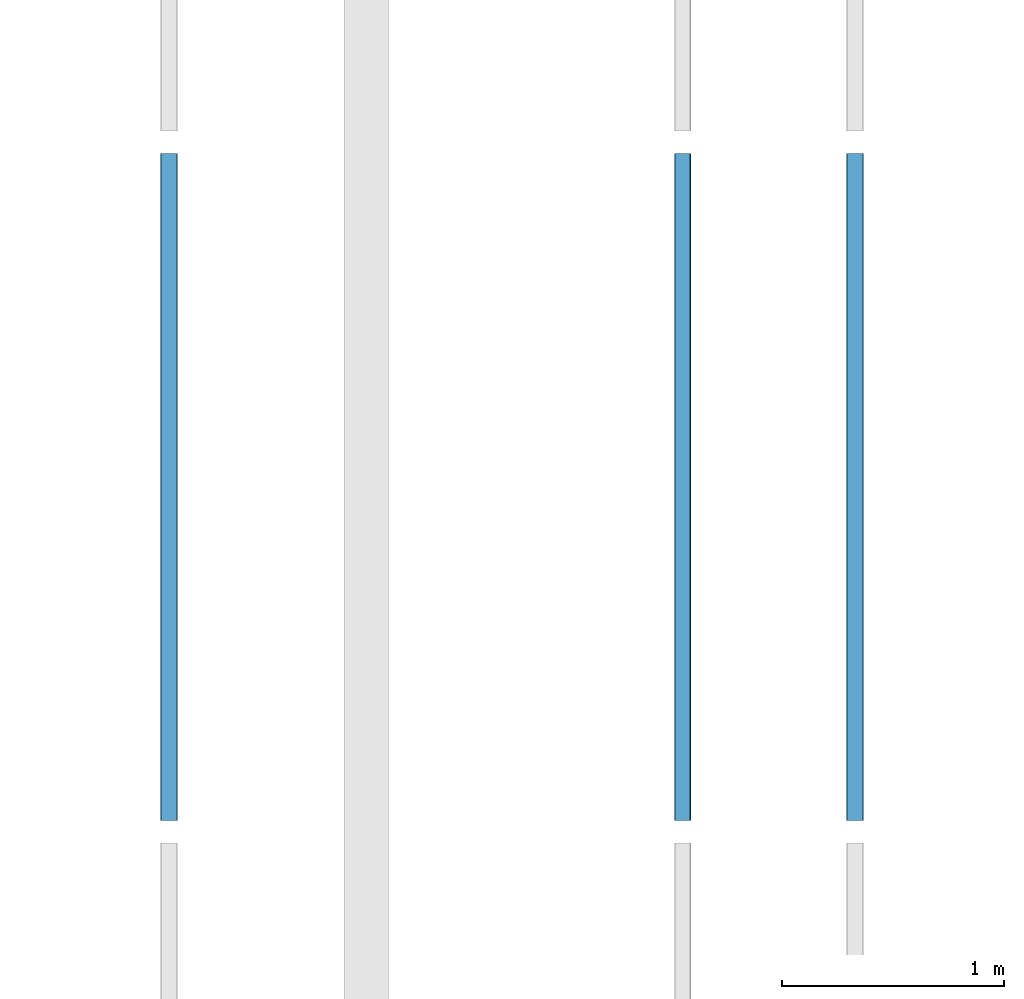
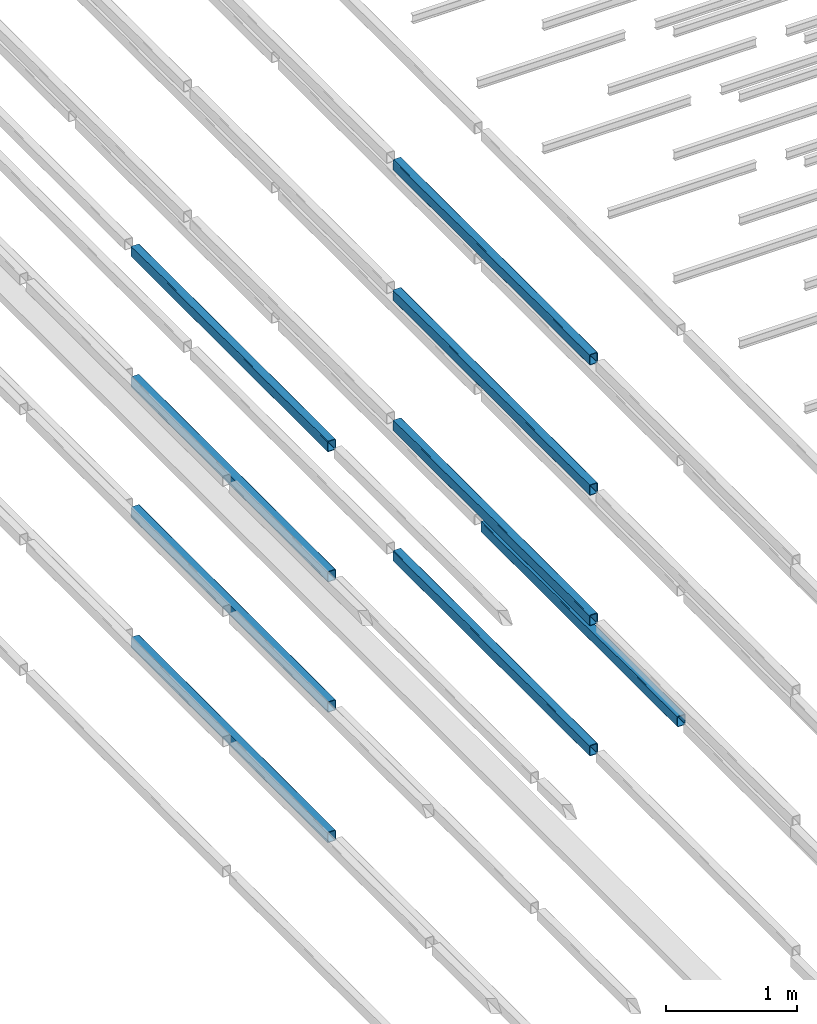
# One storey, part 75 of 290: 9 beams.
"""IFC2X3 building model written with IfcOpenShell, lengths in metres."""

import ifcopenshell
import ifcopenshell.guid

model = None  # the IFC model being written
_history = None  # IfcOwnerHistory: only IFC2X3 demands one
_inside = {}  # id of a spatial element -> (the spatial element, [elements in it])
_under = {}  # id of a project, library or spatial element -> (it, [spatial elements below it])
_declared = {}  # id of a project -> (the project, [libraries it declares])
_typed = {}  # id of a type object -> (the type object, [elements of that type])
_made_of = {}  # id of a material, layer set ... -> (it, [elements and type objects made of it])


def new_model(schema):
    """Start an empty IFC model of exactly this schema.

    Asked for "IFC4X3", IfcOpenShell would pick the latest addendum, in which some entities
    have other attributes; the version numbers below select the first issue.
    IFC2X3 requires an IfcOwnerHistory on every rooted entity: one is made here for all.
    """
    global model, _history
    if schema == "IFC4X3":
        model = ifcopenshell.file(schema_version=(4, 3, 0, 0))
    else:
        model = ifcopenshell.file(schema=schema)
    _inside.clear()
    _under.clear()
    _declared.clear()
    _typed.clear()
    _made_of.clear()
    _history = None
    if model.schema == "IFC2X3":
        org = make("IfcOrganization", Name="unknown")
        user = make(
            "IfcPersonAndOrganization",
            ThePerson=make("IfcPerson", FamilyName="unknown"),
            TheOrganization=org,
        )
        app = make(
            "IfcApplication",
            ApplicationDeveloper=org,
            Version="unknown",
            ApplicationFullName="unknown",
            ApplicationIdentifier="unknown",
        )
        _history = make(
            "IfcOwnerHistory",
            OwningUser=user,
            OwningApplication=app,
            ChangeAction="ADDED",
            CreationDate=0,
        )
    return model


def make(cls, **values):
    """One entity of the class cls with the attributes given. An attribute that is None is left unset."""
    return model.create_entity(
        cls, **{name: value for name, value in values.items() if value is not None}
    )


def entity(cls, *values):
    """Any entity or typed value of the class cls, its attributes in the order of the schema. None: left unset."""
    e = model.create_entity(cls)
    for i, value in enumerate(values):
        if value is not None:
            e[i] = value
    return e


def rooted(cls, **values):
    """An entity with a GlobalId (a new one), such as an element, a storey or a relation."""
    return make(cls, GlobalId=ifcopenshell.guid.new(), OwnerHistory=_history, **values)


def si_unit(unit_type, name, prefix=None):
    """IfcSIUnit, for example si_unit("LENGTHUNIT", "METRE", prefix="MILLI")."""
    return make("IfcSIUnit", UnitType=unit_type, Prefix=prefix, Name=name)


def converted_unit(unit_type, name, factor, base, dimensions=None, offset=None):
    """IfcConversionBasedUnit, such as the inch: factor (a typed value) times the base unit."""
    return make(
        "IfcConversionBasedUnit"
        if offset is None
        else "IfcConversionBasedUnitWithOffset",
        ConversionOffset=offset,
        Dimensions=None
        if dimensions is None
        else entity("IfcDimensionalExponents", *dimensions),
        UnitType=unit_type,
        Name=name,
        ConversionFactor=make(
            "IfcMeasureWithUnit", ValueComponent=factor, UnitComponent=base
        ),
    )


def derived_unit(unit_type, elements):
    """IfcDerivedUnit: a product of units, each with its exponent."""
    return make(
        "IfcDerivedUnit",
        Elements=[
            make("IfcDerivedUnitElement", Unit=unit, Exponent=power)
            for unit, power in elements
        ],
        UnitType=unit_type,
    )


def assignment(units):
    """IfcUnitAssignment: the units of a project."""
    return None if units is None else make("IfcUnitAssignment", Units=units)


def point(xyz):
    """IfcCartesianPoint."""
    return None if xyz is None else make("IfcCartesianPoint", Coordinates=xyz)


def direction(xyz):
    """IfcDirection."""
    return None if xyz is None else make("IfcDirection", DirectionRatios=xyz)


def frame(location, z_axis=None, x_axis=None):
    """IfcAxis2Placement3D, a coordinate frame: its origin and axes. An axis left out is left unset."""
    return make(
        "IfcAxis2Placement3D",
        Location=point(location),
        Axis=direction(z_axis),
        RefDirection=direction(x_axis),
    )


def frame_2d(location, x_axis=None):
    """IfcAxis2Placement2D, a coordinate frame in the plane: its origin and x axis."""
    return make(
        "IfcAxis2Placement2D", Location=point(location), RefDirection=direction(x_axis)
    )


def origin():
    """The frame at (0, 0, 0) with its axes left unset."""
    return frame((0.0, 0.0, 0.0))


def place(relative_to, where):
    """IfcLocalPlacement: puts the frame where relative to a parent placement (None: the world)."""
    return make(
        "IfcLocalPlacement", PlacementRelTo=relative_to, RelativePlacement=where
    )


def context(
    kind, dimensions, precision=None, world=None, true_north=None, identifier=None
):
    """IfcGeometricRepresentationContext, for example the 3D "Model" context."""
    return make(
        "IfcGeometricRepresentationContext",
        ContextIdentifier=identifier,
        ContextType=kind,
        CoordinateSpaceDimension=dimensions,
        Precision=precision,
        WorldCoordinateSystem=world,
        TrueNorth=true_north,
    )


def subcontext(parent, identifier, kind, view, scale=None):
    """IfcGeometricRepresentationSubContext, for example "Body" below "Model"."""
    return make(
        "IfcGeometricRepresentationSubContext",
        ContextIdentifier=identifier,
        ContextType=kind,
        ParentContext=parent,
        TargetScale=scale,
        TargetView=view,
    )


def project(units=None, contexts=None):
    """IfcProject with its units and contexts."""
    return rooted(
        "IfcProject",
        Name="project",
        RepresentationContexts=contexts,
        UnitsInContext=assignment(units),
    )


def spatial(cls, under=None, at=None, **own):
    """A site, building, storey or space (cls), placed at a placement, below another one or the project."""
    s = rooted(cls, ObjectPlacement=at, **own)
    if under is not None:
        _under.setdefault(under.id(), (under, []))[1].append(s)
    return s


def polyline(points):
    """IfcPolyline through the points."""
    return make("IfcPolyline", Points=[point(p) for p in points])


def circle_curve(where, radius):
    """IfcCircle in the frame where."""
    return make("IfcCircle", Position=where, Radius=radius)


def parameter(value):
    """IfcParameterValue: where a trimmed curve begins or ends, as a parameter of its basis curve."""
    return model.create_entity("IfcParameterValue", value)


def trimmed(basis, trim1, trim2, sense, master):
    """IfcTrimmedCurve: the piece of a basis curve between two trims."""
    return make(
        "IfcTrimmedCurve",
        BasisCurve=basis,
        Trim1=trim1,
        Trim2=trim2,
        SenseAgreement=sense,
        MasterRepresentation=master,
    )


def segment(curve, same_sense, transition):
    """IfcCompositeCurveSegment."""
    return make(
        "IfcCompositeCurveSegment",
        Transition=transition,
        SameSense=same_sense,
        ParentCurve=curve,
    )


def composite_curve(segments, self_intersect=None):
    """IfcCompositeCurve: segments joined end to end."""
    return make("IfcCompositeCurve", Segments=segments, SelfIntersect=self_intersect)


def outline(outer, holes=None, kind="AREA"):
    """IfcArbitraryClosedProfileDef: a profile drawn as a closed curve; with holes, ...WithVoids."""
    if holes is None:
        return make("IfcArbitraryClosedProfileDef", ProfileType=kind, OuterCurve=outer)
    return make(
        "IfcArbitraryProfileDefWithVoids",
        ProfileType=kind,
        OuterCurve=outer,
        InnerCurves=holes,
    )


def extrude(swept, where, along, depth):
    """IfcExtrudedAreaSolid: the profile swept, set in the frame where, extruded along a direction by depth."""
    return make(
        "IfcExtrudedAreaSolid",
        SweptArea=swept,
        Position=where,
        ExtrudedDirection=direction(along),
        Depth=depth,
    )


def shape(context_of_items, identifier, shape_type, items):
    """IfcShapeRepresentation: the items that make up one representation, for example the "Body"."""
    return make(
        "IfcShapeRepresentation",
        ContextOfItems=context_of_items,
        RepresentationIdentifier=identifier,
        RepresentationType=shape_type,
        Items=items,
    )


def material(Name=None, Category=None):
    """IfcMaterial."""
    return make("IfcMaterial", Name=Name, Category=Category)


def made_of(thing, what):
    """Note that an element or type object is made of a material, layer set ...; save() writes the relation."""
    if what is not None:
        _made_of.setdefault(what.id(), (what, []))[1].append(thing)
    return thing


def type_object(cls, material=None, **own):
    """A type object (cls), such as IfcWallType, which elements share."""
    return made_of(rooted(cls, **own), material)


def element(
    cls,
    number,
    at=None,
    inside=None,
    cuts=None,
    type_object=None,
    material=None,
    context=None,
    identifier="Body",
    shape_type=None,
    held_by="IfcProductDefinitionShape",
    body=None,
    shapes=None,
    **own,
):
    """One element of the class cls, such as IfcWall. Its Tag is "e" and its number.

    at: its placement. inside: the storey or other place that contains it. cuts: it is an
    opening in that element (IfcRelVoidsElement). A single representation is given by context,
    identifier, shape_type and body (its items); several are given by shapes. held_by: the class
    of the entity that holds the representations. save() writes the other relations.
    """
    e = rooted(cls, Tag="e%d" % number, ObjectPlacement=at, **own)
    if body is not None:
        shapes = [shape(context, identifier, shape_type, body)]
    if shapes is not None:
        e.Representation = make(held_by, Representations=shapes)
    if inside is not None:
        _inside.setdefault(inside.id(), (inside, []))[1].append(e)
    if cuts is not None:
        rooted(
            "IfcRelVoidsElement", RelatingBuildingElement=cuts, RelatedOpeningElement=e
        )
    if type_object is not None:
        _typed.setdefault(type_object.id(), (type_object, []))[1].append(e)
    return made_of(e, material)


def aggregate(whole, parts):
    """IfcRelAggregates: a whole, such as a stair, and the parts it consists of."""
    return rooted("IfcRelAggregates", RelatingObject=whole, RelatedObjects=parts)


def save(model, path):
    """Write the relations noted so far, then the file.

    IfcRelAggregates (storeys below a building ...), IfcRelContainedInSpatialStructure (elements
    in a storey), IfcRelDefinesByType, IfcRelAssociatesMaterial and IfcRelDeclares: one each for
    every whole, place, type object, material and project.
    """
    for whole, parts in _under.values():
        aggregate(whole, parts)
    for where, things in _inside.values():
        rooted(
            "IfcRelContainedInSpatialStructure",
            RelatedElements=things,
            RelatingStructure=where,
        )
    for kind, things in _typed.values():
        rooted("IfcRelDefinesByType", RelatedObjects=things, RelatingType=kind)
    for what, things in _made_of.values():
        rooted("IfcRelAssociatesMaterial", RelatedObjects=things, RelatingMaterial=what)
    for by, libraries in _declared.values():
        rooted("IfcRelDeclares", RelatingContext=by, RelatedDefinitions=libraries)
    model.write(path)


model = new_model("IFC2X3")

# Units and contexts
model_context = context("Model", 3, precision=1e-05, world=origin(), true_north=direction((6.12303176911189e-17, 1.0)))
body_context = subcontext(model_context, "Body", "Model", "MODEL_VIEW")
ifc_project = project(units=[si_unit("LENGTHUNIT", "METRE"), si_unit("AREAUNIT", "SQUARE_METRE"), si_unit("VOLUMEUNIT", "CUBIC_METRE"), converted_unit("PLANEANGLEUNIT", "DEGREE", entity("IfcRatioMeasure", 0.0174532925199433), si_unit("PLANEANGLEUNIT", "RADIAN"), dimensions=[0, 0, 0, 0, 0, 0, 0]), si_unit("MASSUNIT", "GRAM", prefix="KILO"), derived_unit("MASSDENSITYUNIT", [(si_unit("MASSUNIT", "GRAM", prefix="KILO"), 1), (si_unit("LENGTHUNIT", "METRE"), -3)]), derived_unit("MOMENTOFINERTIAUNIT", [(si_unit("LENGTHUNIT", "METRE"), 4)]), si_unit("TIMEUNIT", "SECOND"), si_unit("FREQUENCYUNIT", "HERTZ"), si_unit("THERMODYNAMICTEMPERATUREUNIT", "DEGREE_CELSIUS"), derived_unit("THERMALTRANSMITTANCEUNIT", [(si_unit("MASSUNIT", "GRAM", prefix="KILO"), 1), (si_unit("THERMODYNAMICTEMPERATUREUNIT", "KELVIN"), -1), (si_unit("TIMEUNIT", "SECOND"), -3)]), derived_unit("VOLUMETRICFLOWRATEUNIT", [(si_unit("LENGTHUNIT", "METRE"), 3), (si_unit("TIMEUNIT", "SECOND"), -1)]), si_unit("ELECTRICCURRENTUNIT", "AMPERE"), si_unit("ELECTRICVOLTAGEUNIT", "VOLT"), si_unit("POWERUNIT", "WATT"), si_unit("FORCEUNIT", "NEWTON", prefix="KILO"), si_unit("ILLUMINANCEUNIT", "LUX"), si_unit("LUMINOUSFLUXUNIT", "LUMEN"), si_unit("LUMINOUSINTENSITYUNIT", "CANDELA"), derived_unit("USERDEFINED", [(si_unit("MASSUNIT", "GRAM", prefix="KILO"), -1), (si_unit("LENGTHUNIT", "METRE"), -2), (si_unit("TIMEUNIT", "SECOND"), 3), (si_unit("LUMINOUSFLUXUNIT", "LUMEN"), 1)]), derived_unit("LINEARVELOCITYUNIT", [(si_unit("LENGTHUNIT", "METRE"), 1), (si_unit("TIMEUNIT", "SECOND"), -1)]), si_unit("PRESSUREUNIT", "PASCAL"), derived_unit("USERDEFINED", [(si_unit("LENGTHUNIT", "METRE"), -2), (si_unit("MASSUNIT", "GRAM", prefix="KILO"), 1), (si_unit("TIMEUNIT", "SECOND"), -2)]), derived_unit("LINEARFORCEUNIT", [(si_unit("MASSUNIT", "GRAM", prefix="KILO"), 1), (si_unit("LENGTHUNIT", "METRE"), 1), (si_unit("TIMEUNIT", "SECOND"), -2), (si_unit("LENGTHUNIT", "METRE"), -1)]), derived_unit("PLANARFORCEUNIT", [(si_unit("MASSUNIT", "GRAM", prefix="KILO"), 1), (si_unit("LENGTHUNIT", "METRE"), 1), (si_unit("TIMEUNIT", "SECOND"), -2), (si_unit("LENGTHUNIT", "METRE"), -2)])], contexts=[model_context])

# Site, building, storey
site_placement = place(None, origin())
site = spatial("IfcSite", under=ifc_project, at=site_placement, Name="Default", CompositionType="ELEMENT")
building_placement = place(site_placement, origin())
building = spatial("IfcBuilding", under=site, at=building_placement, CompositionType="ELEMENT")
storey_placement = place(building_placement, frame((0.0, 0.0, 4.0)))
storey = spatial("IfcBuildingStorey", under=building, at=storey_placement, Name="01_OG", CompositionType="ELEMENT", Elevation=4.0)

# Beams
ifc_material = material(Name="Metall - Baustahl S235 blau")
beam_type = type_object("IfcBeamType", Name="RHS Träger (EN 10219-2):RHS 100 x 75 x 5", PredefinedType="NOTDEFINED")
beam_1_placement = place(storey_placement, frame((-178.465111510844, 30.248088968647, -1.2), z_axis=(0.0, 0.0, 1.0), x_axis=(0.0, 1.0, 0.0)))
element("IfcBeam", 1, at=beam_1_placement, inside=storey, type_object=beam_type, material=ifc_material, Name="RHS Träger (EN 10219-2):RHS 100 x 75 x 5", ObjectType="RHS Träger (EN 10219-2):RHS 100 x 75 x 5", context=body_context, shape_type="SweptSolid", body=[
    extrude(outline(composite_curve([segment(polyline([(-0.0400000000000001, -0.0374999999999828), (0.0400000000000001, -0.0374999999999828)]), True, "CONTINUOUS"), segment(trimmed(circle_curve(frame_2d((0.0400000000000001, -0.0274999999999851), x_axis=(0.0, 1.0)), 0.01), [parameter(180.0)], [parameter(270.0)], True, "PARAMETER"), True, "CONTINUOUS"), segment(polyline([(0.05, -0.0274999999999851), (0.05, 0.0274999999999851)]), True, "CONTINUOUS"), segment(trimmed(circle_curve(frame_2d((0.0400000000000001, 0.0274999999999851), x_axis=(0.0, 1.0)), 0.01), [parameter(270.0)], [parameter(4.07110999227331e-13)], True, "PARAMETER"), True, "CONTINUOUS"), segment(polyline([(0.0400000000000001, 0.0375000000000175), (-0.0400000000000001, 0.0375000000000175)]), True, "CONTINUOUS"), segment(trimmed(circle_curve(frame_2d((-0.0400000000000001, 0.0274999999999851), x_axis=(0.0, 1.0)), 0.01), [parameter(360.0)], [parameter(90.0000000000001)], True, "PARAMETER"), True, "CONTINUOUS"), segment(polyline([(-0.05, 0.0274999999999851), (-0.05, -0.0274999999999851)]), True, "CONTINUOUS"), segment(trimmed(circle_curve(frame_2d((-0.0400000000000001, -0.0274999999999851), x_axis=(0.0, 1.0)), 0.01), [parameter(90.0000000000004)], [parameter(180.0)], True, "PARAMETER"), True, "CONTINUOUS")], self_intersect=False), holes=[composite_curve([segment(trimmed(circle_curve(frame_2d((-0.0400000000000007, 0.0274999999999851), x_axis=(0.0, 1.0)), 0.005), [parameter(360.0)], [parameter(89.9999999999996)], True, "PARAMETER"), False, "CONTINUOUS"), segment(polyline([(-0.0400000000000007, 0.0325000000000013), (0.039999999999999, 0.0325000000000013)]), True, "CONTINUOUS"), segment(trimmed(circle_curve(frame_2d((0.039999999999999, 0.0274999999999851), x_axis=(0.0, 1.0)), 0.005), [parameter(270.0)], [parameter(0.0)], True, "PARAMETER"), False, "CONTINUOUS"), segment(polyline([(0.044999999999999, 0.0274999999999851), (0.044999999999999, -0.0274999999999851)]), True, "CONTINUOUS"), segment(trimmed(circle_curve(frame_2d((0.039999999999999, -0.0274999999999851), x_axis=(0.0, 1.0)), 0.005), [parameter(180.0)], [parameter(269.999999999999)], True, "PARAMETER"), False, "CONTINUOUS"), segment(polyline([(0.039999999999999, -0.0325000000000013), (-0.0400000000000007, -0.0325000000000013)]), True, "CONTINUOUS"), segment(trimmed(circle_curve(frame_2d((-0.0400000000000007, -0.0274999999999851), x_axis=(0.0, 1.0)), 0.005), [parameter(90.0000000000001)], [parameter(180.0)], True, "PARAMETER"), False, "CONTINUOUS"), segment(polyline([(-0.0450000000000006, -0.0274999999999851), (-0.0450000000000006, 0.0274999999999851)]), True, "CONTINUOUS")], self_intersect=False)]), frame((0.000100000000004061, -0.0375000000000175, -0.0500000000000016), z_axis=(1.0, 0.0, 0.0), x_axis=(0.0, 0.0, -1.0)), (0.0, 0.0, 1.0), 2.9998),
])
beam_2_placement = place(storey_placement, frame((-178.465111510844, 30.248088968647, 0.0150000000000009), z_axis=(0.0, 0.0, 1.0), x_axis=(0.0, 1.0, 0.0)))
element("IfcBeam", 2, at=beam_2_placement, inside=storey, type_object=beam_type, material=ifc_material, Name="RHS Träger (EN 10219-2):RHS 100 x 75 x 5", ObjectType="RHS Träger (EN 10219-2):RHS 100 x 75 x 5", context=body_context, shape_type="SweptSolid", body=[
    extrude(outline(composite_curve([segment(polyline([(-0.0400000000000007, -0.0374999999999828), (0.0399999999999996, -0.0374999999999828)]), True, "CONTINUOUS"), segment(trimmed(circle_curve(frame_2d((0.0399999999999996, -0.0274999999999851), x_axis=(0.0, 1.0)), 0.01), [parameter(180.0)], [parameter(270.0)], True, "PARAMETER"), True, "CONTINUOUS"), segment(polyline([(0.0499999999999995, -0.0274999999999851), (0.0499999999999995, 0.0274999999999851)]), True, "CONTINUOUS"), segment(trimmed(circle_curve(frame_2d((0.0399999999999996, 0.0274999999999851), x_axis=(0.0, 1.0)), 0.01), [parameter(270.0)], [parameter(4.07110999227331e-13)], True, "PARAMETER"), True, "CONTINUOUS"), segment(polyline([(0.0399999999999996, 0.0375000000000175), (-0.0400000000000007, 0.0375000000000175)]), True, "CONTINUOUS"), segment(trimmed(circle_curve(frame_2d((-0.0400000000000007, 0.0274999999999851), x_axis=(0.0, 1.0)), 0.01), [parameter(360.0)], [parameter(90.0000000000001)], True, "PARAMETER"), True, "CONTINUOUS"), segment(polyline([(-0.0500000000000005, 0.0274999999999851), (-0.0500000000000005, -0.0274999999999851)]), True, "CONTINUOUS"), segment(trimmed(circle_curve(frame_2d((-0.0400000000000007, -0.0274999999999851), x_axis=(0.0, 1.0)), 0.01), [parameter(90.0000000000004)], [parameter(180.0)], True, "PARAMETER"), True, "CONTINUOUS")], self_intersect=False), holes=[composite_curve([segment(trimmed(circle_curve(frame_2d((-0.0400000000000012, 0.0274999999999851), x_axis=(0.0, 1.0)), 0.005), [parameter(360.0)], [parameter(89.9999999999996)], True, "PARAMETER"), False, "CONTINUOUS"), segment(polyline([(-0.0400000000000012, 0.0325000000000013), (0.0399999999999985, 0.0325000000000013)]), True, "CONTINUOUS"), segment(trimmed(circle_curve(frame_2d((0.0399999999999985, 0.0274999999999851), x_axis=(0.0, 1.0)), 0.005), [parameter(270.0)], [parameter(0.0)], True, "PARAMETER"), False, "CONTINUOUS"), segment(polyline([(0.0449999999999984, 0.0274999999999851), (0.0449999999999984, -0.0274999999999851)]), True, "CONTINUOUS"), segment(trimmed(circle_curve(frame_2d((0.0399999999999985, -0.0274999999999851), x_axis=(0.0, 1.0)), 0.005), [parameter(180.0)], [parameter(269.999999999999)], True, "PARAMETER"), False, "CONTINUOUS"), segment(polyline([(0.0399999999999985, -0.0325000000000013), (-0.0400000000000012, -0.0325000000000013)]), True, "CONTINUOUS"), segment(trimmed(circle_curve(frame_2d((-0.0400000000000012, -0.0274999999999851), x_axis=(0.0, 1.0)), 0.005), [parameter(90.0000000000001)], [parameter(180.0)], True, "PARAMETER"), False, "CONTINUOUS"), segment(polyline([(-0.0450000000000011, -0.0274999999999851), (-0.0450000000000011, 0.0274999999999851)]), True, "CONTINUOUS")], self_intersect=False)]), frame((0.000100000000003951, -0.0375000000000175, -0.0500000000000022), z_axis=(1.0, 0.0, 0.0), x_axis=(0.0, 0.0, -1.0)), (0.0, 0.0, 1.0), 2.9998),
])
beam_3_placement = place(storey_placement, frame((-178.465111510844, 30.248088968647, 1.23), z_axis=(0.0, 0.0, 1.0), x_axis=(0.0, 1.0, 0.0)))
element("IfcBeam", 3, at=beam_3_placement, inside=storey, type_object=beam_type, material=ifc_material, Name="RHS Träger (EN 10219-2):RHS 100 x 75 x 5", ObjectType="RHS Träger (EN 10219-2):RHS 100 x 75 x 5", context=body_context, shape_type="SweptSolid", body=[
    extrude(outline(composite_curve([segment(polyline([(-0.0399999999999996, -0.0374999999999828), (0.0399999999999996, -0.0374999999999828)]), True, "CONTINUOUS"), segment(trimmed(circle_curve(frame_2d((0.0399999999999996, -0.0274999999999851), x_axis=(0.0, 1.0)), 0.01), [parameter(180.0)], [parameter(270.0)], True, "PARAMETER"), True, "CONTINUOUS"), segment(polyline([(0.0500000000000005, -0.0274999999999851), (0.0500000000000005, 0.0274999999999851)]), True, "CONTINUOUS"), segment(trimmed(circle_curve(frame_2d((0.0399999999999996, 0.0274999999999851), x_axis=(0.0, 1.0)), 0.01), [parameter(270.0)], [parameter(4.07110999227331e-13)], True, "PARAMETER"), True, "CONTINUOUS"), segment(polyline([(0.0399999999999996, 0.0375000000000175), (-0.0399999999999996, 0.0375000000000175)]), True, "CONTINUOUS"), segment(trimmed(circle_curve(frame_2d((-0.0399999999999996, 0.0274999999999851), x_axis=(0.0, 1.0)), 0.01), [parameter(360.0)], [parameter(90.0000000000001)], True, "PARAMETER"), True, "CONTINUOUS"), segment(polyline([(-0.0499999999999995, 0.0274999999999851), (-0.0499999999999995, -0.0274999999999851)]), True, "CONTINUOUS"), segment(trimmed(circle_curve(frame_2d((-0.0399999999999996, -0.0274999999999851), x_axis=(0.0, 1.0)), 0.01), [parameter(90.0000000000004)], [parameter(180.0)], True, "PARAMETER"), True, "CONTINUOUS")], self_intersect=False), holes=[composite_curve([segment(trimmed(circle_curve(frame_2d((-0.0400000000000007, 0.0274999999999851), x_axis=(0.0, 1.0)), 0.005), [parameter(360.0)], [parameter(89.9999999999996)], True, "PARAMETER"), False, "CONTINUOUS"), segment(polyline([(-0.0400000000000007, 0.0325000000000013), (0.0399999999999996, 0.0325000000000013)]), True, "CONTINUOUS"), segment(trimmed(circle_curve(frame_2d((0.0399999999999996, 0.0274999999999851), x_axis=(0.0, 1.0)), 0.005), [parameter(270.0)], [parameter(0.0)], True, "PARAMETER"), False, "CONTINUOUS"), segment(polyline([(0.0449999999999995, 0.0274999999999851), (0.0449999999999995, -0.0274999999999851)]), True, "CONTINUOUS"), segment(trimmed(circle_curve(frame_2d((0.0399999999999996, -0.0274999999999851), x_axis=(0.0, 1.0)), 0.005), [parameter(180.0)], [parameter(269.999999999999)], True, "PARAMETER"), False, "CONTINUOUS"), segment(polyline([(0.0399999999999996, -0.0325000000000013), (-0.0400000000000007, -0.0325000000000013)]), True, "CONTINUOUS"), segment(trimmed(circle_curve(frame_2d((-0.0400000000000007, -0.0274999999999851), x_axis=(0.0, 1.0)), 0.005), [parameter(90.0000000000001)], [parameter(180.0)], True, "PARAMETER"), False, "CONTINUOUS"), segment(polyline([(-0.0450000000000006, -0.0274999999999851), (-0.0450000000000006, 0.0274999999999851)]), True, "CONTINUOUS")], self_intersect=False)]), frame((0.000100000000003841, -0.0375000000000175, -0.0500000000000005), z_axis=(1.0, 0.0, 0.0), x_axis=(0.0, 0.0, -1.0)), (0.0, 0.0, 1.0), 2.9998),
])
beam_4_placement = place(storey_placement, frame((-178.465111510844, 30.248088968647, 2.445), z_axis=(0.0, 0.0, 1.0), x_axis=(0.0, 1.0, 0.0)))
element("IfcBeam", 4, at=beam_4_placement, inside=storey, type_object=beam_type, material=ifc_material, Name="RHS Träger (EN 10219-2):RHS 100 x 75 x 5", ObjectType="RHS Träger (EN 10219-2):RHS 100 x 75 x 5", context=body_context, shape_type="SweptSolid", body=[
    extrude(outline(composite_curve([segment(polyline([(-0.0399999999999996, -0.0374999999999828), (0.0399999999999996, -0.0374999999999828)]), True, "CONTINUOUS"), segment(trimmed(circle_curve(frame_2d((0.0399999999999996, -0.0274999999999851), x_axis=(0.0, 1.0)), 0.01), [parameter(180.0)], [parameter(270.0)], True, "PARAMETER"), True, "CONTINUOUS"), segment(polyline([(0.0500000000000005, -0.0274999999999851), (0.0500000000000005, 0.0274999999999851)]), True, "CONTINUOUS"), segment(trimmed(circle_curve(frame_2d((0.0399999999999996, 0.0274999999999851), x_axis=(0.0, 1.0)), 0.01), [parameter(270.0)], [parameter(4.07110999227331e-13)], True, "PARAMETER"), True, "CONTINUOUS"), segment(polyline([(0.0399999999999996, 0.0375000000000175), (-0.0399999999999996, 0.0375000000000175)]), True, "CONTINUOUS"), segment(trimmed(circle_curve(frame_2d((-0.0399999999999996, 0.0274999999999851), x_axis=(0.0, 1.0)), 0.01), [parameter(360.0)], [parameter(90.0000000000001)], True, "PARAMETER"), True, "CONTINUOUS"), segment(polyline([(-0.0499999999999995, 0.0274999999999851), (-0.0499999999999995, -0.0274999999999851)]), True, "CONTINUOUS"), segment(trimmed(circle_curve(frame_2d((-0.0399999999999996, -0.0274999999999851), x_axis=(0.0, 1.0)), 0.01), [parameter(90.0000000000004)], [parameter(180.0)], True, "PARAMETER"), True, "CONTINUOUS")], self_intersect=False), holes=[composite_curve([segment(trimmed(circle_curve(frame_2d((-0.0400000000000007, 0.0274999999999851), x_axis=(0.0, 1.0)), 0.005), [parameter(360.0)], [parameter(89.9999999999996)], True, "PARAMETER"), False, "CONTINUOUS"), segment(polyline([(-0.0400000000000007, 0.0325000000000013), (0.0399999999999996, 0.0325000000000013)]), True, "CONTINUOUS"), segment(trimmed(circle_curve(frame_2d((0.0399999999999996, 0.0274999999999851), x_axis=(0.0, 1.0)), 0.005), [parameter(270.0)], [parameter(0.0)], True, "PARAMETER"), False, "CONTINUOUS"), segment(polyline([(0.0449999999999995, 0.0274999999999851), (0.0449999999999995, -0.0274999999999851)]), True, "CONTINUOUS"), segment(trimmed(circle_curve(frame_2d((0.0399999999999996, -0.0274999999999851), x_axis=(0.0, 1.0)), 0.005), [parameter(180.0)], [parameter(269.999999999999)], True, "PARAMETER"), False, "CONTINUOUS"), segment(polyline([(0.0399999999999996, -0.0325000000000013), (-0.0400000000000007, -0.0325000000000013)]), True, "CONTINUOUS"), segment(trimmed(circle_curve(frame_2d((-0.0400000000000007, -0.0274999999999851), x_axis=(0.0, 1.0)), 0.005), [parameter(90.0000000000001)], [parameter(180.0)], True, "PARAMETER"), False, "CONTINUOUS"), segment(polyline([(-0.0450000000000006, -0.0274999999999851), (-0.0450000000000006, 0.0274999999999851)]), True, "CONTINUOUS")], self_intersect=False)]), frame((0.000100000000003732, -0.0375000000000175, -0.0500000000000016), z_axis=(1.0, 0.0, 0.0), x_axis=(0.0, 0.0, -1.0)), (0.0, 0.0, 1.0), 2.9998),
])
beam_5_placement = place(storey_placement, frame((-175.305111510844, 30.248088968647, -1.2), z_axis=(0.0, 0.0, 1.0), x_axis=(0.0, 1.0, 0.0)))
element("IfcBeam", 5, at=beam_5_placement, inside=storey, type_object=beam_type, material=ifc_material, Name="RHS Träger (EN 10219-2):RHS 100 x 75 x 5", ObjectType="RHS Träger (EN 10219-2):RHS 100 x 75 x 5", context=body_context, shape_type="SweptSolid", body=[
    extrude(outline(composite_curve([segment(trimmed(circle_curve(frame_2d((-0.0274999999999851, -0.0400000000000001), x_axis=(1.0, 0.0)), 0.01), [parameter(180.0)], [parameter(270.0)], True, "PARAMETER"), True, "CONTINUOUS"), segment(polyline([(-0.0274999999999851, -0.05), (0.0274999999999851, -0.05)]), True, "CONTINUOUS"), segment(trimmed(circle_curve(frame_2d((0.0274999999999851, -0.0400000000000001), x_axis=(1.0, 0.0)), 0.01), [parameter(270.0)], [parameter(5.08888749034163e-14)], True, "PARAMETER"), True, "CONTINUOUS"), segment(polyline([(0.0375000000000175, -0.0400000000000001), (0.0375000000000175, 0.0400000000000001)]), True, "CONTINUOUS"), segment(trimmed(circle_curve(frame_2d((0.0274999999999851, 0.0400000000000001), x_axis=(1.0, 0.0)), 0.01), [parameter(360.0)], [parameter(89.9999999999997)], True, "PARAMETER"), True, "CONTINUOUS"), segment(polyline([(0.0274999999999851, 0.05), (-0.0274999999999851, 0.05)]), True, "CONTINUOUS"), segment(trimmed(circle_curve(frame_2d((-0.0274999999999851, 0.0400000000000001), x_axis=(1.0, 0.0)), 0.01), [parameter(90.0000000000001)], [parameter(180.0)], True, "PARAMETER"), True, "CONTINUOUS"), segment(polyline([(-0.0374999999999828, 0.0400000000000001), (-0.0374999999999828, -0.0400000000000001)]), True, "CONTINUOUS")], self_intersect=False), holes=[composite_curve([segment(polyline([(0.0274999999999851, -0.0450000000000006), (-0.0274999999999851, -0.0450000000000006)]), True, "CONTINUOUS"), segment(trimmed(circle_curve(frame_2d((-0.0274999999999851, -0.0400000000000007), x_axis=(1.0, 0.0)), 0.005), [parameter(180.0)], [parameter(270.0)], True, "PARAMETER"), False, "CONTINUOUS"), segment(polyline([(-0.0325000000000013, -0.0400000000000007), (-0.0325000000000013, 0.039999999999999)]), True, "CONTINUOUS"), segment(trimmed(circle_curve(frame_2d((-0.0274999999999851, 0.039999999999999), x_axis=(1.0, 0.0)), 0.005), [parameter(90.0000000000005)], [parameter(180.0)], True, "PARAMETER"), False, "CONTINUOUS"), segment(polyline([(-0.0274999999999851, 0.044999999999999), (0.0274999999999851, 0.044999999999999)]), True, "CONTINUOUS"), segment(trimmed(circle_curve(frame_2d((0.0274999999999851, 0.039999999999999), x_axis=(1.0, 0.0)), 0.005), [parameter(0.0)], [parameter(90.0000000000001)], True, "PARAMETER"), False, "CONTINUOUS"), segment(polyline([(0.0325000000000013, 0.039999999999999), (0.0325000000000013, -0.0400000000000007)]), True, "CONTINUOUS"), segment(trimmed(circle_curve(frame_2d((0.0274999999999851, -0.0400000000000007), x_axis=(1.0, 0.0)), 0.005), [parameter(270.0)], [parameter(4.07110999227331e-13)], True, "PARAMETER"), False, "CONTINUOUS")], self_intersect=False)]), frame((0.000100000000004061, 0.0375000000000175, -0.0500000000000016), z_axis=(1.0, 0.0, 0.0), x_axis=(0.0, -1.0, 0.0)), (0.0, 0.0, 1.0), 2.9998),
])
beam_6_placement = place(storey_placement, frame((-176.155111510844, 30.248088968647, -1.2), z_axis=(0.0, 0.0, 1.0), x_axis=(0.0, 1.0, 0.0)))
element("IfcBeam", 6, at=beam_6_placement, inside=storey, type_object=beam_type, material=ifc_material, Name="RHS Träger (EN 10219-2):RHS 100 x 75 x 5", ObjectType="RHS Träger (EN 10219-2):RHS 100 x 75 x 5", context=body_context, shape_type="SweptSolid", body=[
    extrude(outline(composite_curve([segment(polyline([(-0.0400000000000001, -0.0374999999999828), (0.0400000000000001, -0.0374999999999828)]), True, "CONTINUOUS"), segment(trimmed(circle_curve(frame_2d((0.0400000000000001, -0.0274999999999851), x_axis=(0.0, 1.0)), 0.01), [parameter(180.0)], [parameter(270.0)], True, "PARAMETER"), True, "CONTINUOUS"), segment(polyline([(0.05, -0.0274999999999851), (0.05, 0.0274999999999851)]), True, "CONTINUOUS"), segment(trimmed(circle_curve(frame_2d((0.0400000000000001, 0.0274999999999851), x_axis=(0.0, 1.0)), 0.01), [parameter(270.0)], [parameter(4.07110999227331e-13)], True, "PARAMETER"), True, "CONTINUOUS"), segment(polyline([(0.0400000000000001, 0.0375000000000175), (-0.0400000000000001, 0.0375000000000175)]), True, "CONTINUOUS"), segment(trimmed(circle_curve(frame_2d((-0.0400000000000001, 0.0274999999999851), x_axis=(0.0, 1.0)), 0.01), [parameter(360.0)], [parameter(90.0000000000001)], True, "PARAMETER"), True, "CONTINUOUS"), segment(polyline([(-0.05, 0.0274999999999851), (-0.05, -0.0274999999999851)]), True, "CONTINUOUS"), segment(trimmed(circle_curve(frame_2d((-0.0400000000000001, -0.0274999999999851), x_axis=(0.0, 1.0)), 0.01), [parameter(90.0000000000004)], [parameter(180.0)], True, "PARAMETER"), True, "CONTINUOUS")], self_intersect=False), holes=[composite_curve([segment(trimmed(circle_curve(frame_2d((-0.0400000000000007, 0.0274999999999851), x_axis=(0.0, 1.0)), 0.005), [parameter(360.0)], [parameter(89.9999999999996)], True, "PARAMETER"), False, "CONTINUOUS"), segment(polyline([(-0.0400000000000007, 0.0325000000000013), (0.039999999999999, 0.0325000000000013)]), True, "CONTINUOUS"), segment(trimmed(circle_curve(frame_2d((0.039999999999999, 0.0274999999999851), x_axis=(0.0, 1.0)), 0.005), [parameter(270.0)], [parameter(0.0)], True, "PARAMETER"), False, "CONTINUOUS"), segment(polyline([(0.044999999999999, 0.0274999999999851), (0.044999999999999, -0.0274999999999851)]), True, "CONTINUOUS"), segment(trimmed(circle_curve(frame_2d((0.039999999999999, -0.0274999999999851), x_axis=(0.0, 1.0)), 0.005), [parameter(180.0)], [parameter(269.999999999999)], True, "PARAMETER"), False, "CONTINUOUS"), segment(polyline([(0.039999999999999, -0.0325000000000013), (-0.0400000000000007, -0.0325000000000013)]), True, "CONTINUOUS"), segment(trimmed(circle_curve(frame_2d((-0.0400000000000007, -0.0274999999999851), x_axis=(0.0, 1.0)), 0.005), [parameter(90.0000000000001)], [parameter(180.0)], True, "PARAMETER"), False, "CONTINUOUS"), segment(polyline([(-0.0450000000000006, -0.0274999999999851), (-0.0450000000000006, 0.0274999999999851)]), True, "CONTINUOUS")], self_intersect=False)]), frame((0.000100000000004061, -0.0375000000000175, -0.0500000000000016), z_axis=(1.0, 0.0, 0.0), x_axis=(0.0, 0.0, -1.0)), (0.0, 0.0, 1.0), 2.9998),
])
beam_7_placement = place(storey_placement, frame((-176.155111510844, 30.248088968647, 0.0150000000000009), z_axis=(0.0, 0.0, 1.0), x_axis=(0.0, 1.0, 0.0)))
element("IfcBeam", 7, at=beam_7_placement, inside=storey, type_object=beam_type, material=ifc_material, Name="RHS Träger (EN 10219-2):RHS 100 x 75 x 5", ObjectType="RHS Träger (EN 10219-2):RHS 100 x 75 x 5", context=body_context, shape_type="SweptSolid", body=[
    extrude(outline(composite_curve([segment(polyline([(-0.0400000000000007, -0.0374999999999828), (0.0399999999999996, -0.0374999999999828)]), True, "CONTINUOUS"), segment(trimmed(circle_curve(frame_2d((0.0399999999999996, -0.0274999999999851), x_axis=(0.0, 1.0)), 0.01), [parameter(180.0)], [parameter(270.0)], True, "PARAMETER"), True, "CONTINUOUS"), segment(polyline([(0.0499999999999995, -0.0274999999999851), (0.0499999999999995, 0.0274999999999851)]), True, "CONTINUOUS"), segment(trimmed(circle_curve(frame_2d((0.0399999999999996, 0.0274999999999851), x_axis=(0.0, 1.0)), 0.01), [parameter(270.0)], [parameter(4.07110999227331e-13)], True, "PARAMETER"), True, "CONTINUOUS"), segment(polyline([(0.0399999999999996, 0.0375000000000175), (-0.0400000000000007, 0.0375000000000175)]), True, "CONTINUOUS"), segment(trimmed(circle_curve(frame_2d((-0.0400000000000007, 0.0274999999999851), x_axis=(0.0, 1.0)), 0.01), [parameter(360.0)], [parameter(90.0000000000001)], True, "PARAMETER"), True, "CONTINUOUS"), segment(polyline([(-0.0500000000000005, 0.0274999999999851), (-0.0500000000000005, -0.0274999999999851)]), True, "CONTINUOUS"), segment(trimmed(circle_curve(frame_2d((-0.0400000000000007, -0.0274999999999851), x_axis=(0.0, 1.0)), 0.01), [parameter(90.0000000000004)], [parameter(180.0)], True, "PARAMETER"), True, "CONTINUOUS")], self_intersect=False), holes=[composite_curve([segment(trimmed(circle_curve(frame_2d((-0.0400000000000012, 0.0274999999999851), x_axis=(0.0, 1.0)), 0.005), [parameter(360.0)], [parameter(89.9999999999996)], True, "PARAMETER"), False, "CONTINUOUS"), segment(polyline([(-0.0400000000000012, 0.0325000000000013), (0.0399999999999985, 0.0325000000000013)]), True, "CONTINUOUS"), segment(trimmed(circle_curve(frame_2d((0.0399999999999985, 0.0274999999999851), x_axis=(0.0, 1.0)), 0.005), [parameter(270.0)], [parameter(0.0)], True, "PARAMETER"), False, "CONTINUOUS"), segment(polyline([(0.0449999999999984, 0.0274999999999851), (0.0449999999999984, -0.0274999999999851)]), True, "CONTINUOUS"), segment(trimmed(circle_curve(frame_2d((0.0399999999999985, -0.0274999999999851), x_axis=(0.0, 1.0)), 0.005), [parameter(180.0)], [parameter(269.999999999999)], True, "PARAMETER"), False, "CONTINUOUS"), segment(polyline([(0.0399999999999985, -0.0325000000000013), (-0.0400000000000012, -0.0325000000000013)]), True, "CONTINUOUS"), segment(trimmed(circle_curve(frame_2d((-0.0400000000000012, -0.0274999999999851), x_axis=(0.0, 1.0)), 0.005), [parameter(90.0000000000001)], [parameter(180.0)], True, "PARAMETER"), False, "CONTINUOUS"), segment(polyline([(-0.0450000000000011, -0.0274999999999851), (-0.0450000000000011, 0.0274999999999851)]), True, "CONTINUOUS")], self_intersect=False)]), frame((0.000100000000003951, -0.0375000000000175, -0.0500000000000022), z_axis=(1.0, 0.0, 0.0), x_axis=(0.0, 0.0, -1.0)), (0.0, 0.0, 1.0), 2.9998),
])
beam_8_placement = place(storey_placement, frame((-176.155111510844, 30.248088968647, 1.23), z_axis=(0.0, 0.0, 1.0), x_axis=(0.0, 1.0, 0.0)))
element("IfcBeam", 8, at=beam_8_placement, inside=storey, type_object=beam_type, material=ifc_material, Name="RHS Träger (EN 10219-2):RHS 100 x 75 x 5", ObjectType="RHS Träger (EN 10219-2):RHS 100 x 75 x 5", context=body_context, shape_type="SweptSolid", body=[
    extrude(outline(composite_curve([segment(polyline([(-0.0399999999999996, -0.0374999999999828), (0.0399999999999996, -0.0374999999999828)]), True, "CONTINUOUS"), segment(trimmed(circle_curve(frame_2d((0.0399999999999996, -0.0274999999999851), x_axis=(0.0, 1.0)), 0.01), [parameter(180.0)], [parameter(270.0)], True, "PARAMETER"), True, "CONTINUOUS"), segment(polyline([(0.0500000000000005, -0.0274999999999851), (0.0500000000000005, 0.0274999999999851)]), True, "CONTINUOUS"), segment(trimmed(circle_curve(frame_2d((0.0399999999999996, 0.0274999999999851), x_axis=(0.0, 1.0)), 0.01), [parameter(270.0)], [parameter(4.07110999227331e-13)], True, "PARAMETER"), True, "CONTINUOUS"), segment(polyline([(0.0399999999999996, 0.0375000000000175), (-0.0399999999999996, 0.0375000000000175)]), True, "CONTINUOUS"), segment(trimmed(circle_curve(frame_2d((-0.0399999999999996, 0.0274999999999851), x_axis=(0.0, 1.0)), 0.01), [parameter(360.0)], [parameter(90.0000000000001)], True, "PARAMETER"), True, "CONTINUOUS"), segment(polyline([(-0.0499999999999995, 0.0274999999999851), (-0.0499999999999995, -0.0274999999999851)]), True, "CONTINUOUS"), segment(trimmed(circle_curve(frame_2d((-0.0399999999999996, -0.0274999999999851), x_axis=(0.0, 1.0)), 0.01), [parameter(90.0000000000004)], [parameter(180.0)], True, "PARAMETER"), True, "CONTINUOUS")], self_intersect=False), holes=[composite_curve([segment(trimmed(circle_curve(frame_2d((-0.0400000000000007, 0.0274999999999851), x_axis=(0.0, 1.0)), 0.005), [parameter(360.0)], [parameter(89.9999999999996)], True, "PARAMETER"), False, "CONTINUOUS"), segment(polyline([(-0.0400000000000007, 0.0325000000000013), (0.0399999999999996, 0.0325000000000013)]), True, "CONTINUOUS"), segment(trimmed(circle_curve(frame_2d((0.0399999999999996, 0.0274999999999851), x_axis=(0.0, 1.0)), 0.005), [parameter(270.0)], [parameter(0.0)], True, "PARAMETER"), False, "CONTINUOUS"), segment(polyline([(0.0449999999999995, 0.0274999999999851), (0.0449999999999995, -0.0274999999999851)]), True, "CONTINUOUS"), segment(trimmed(circle_curve(frame_2d((0.0399999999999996, -0.0274999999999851), x_axis=(0.0, 1.0)), 0.005), [parameter(180.0)], [parameter(269.999999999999)], True, "PARAMETER"), False, "CONTINUOUS"), segment(polyline([(0.0399999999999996, -0.0325000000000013), (-0.0400000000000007, -0.0325000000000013)]), True, "CONTINUOUS"), segment(trimmed(circle_curve(frame_2d((-0.0400000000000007, -0.0274999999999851), x_axis=(0.0, 1.0)), 0.005), [parameter(90.0000000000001)], [parameter(180.0)], True, "PARAMETER"), False, "CONTINUOUS"), segment(polyline([(-0.0450000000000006, -0.0274999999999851), (-0.0450000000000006, 0.0274999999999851)]), True, "CONTINUOUS")], self_intersect=False)]), frame((0.000100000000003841, -0.0375000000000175, -0.0500000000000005), z_axis=(1.0, 0.0, 0.0), x_axis=(0.0, 0.0, -1.0)), (0.0, 0.0, 1.0), 2.9998),
])
beam_9_placement = place(storey_placement, frame((-176.155111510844, 30.248088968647, 2.445), z_axis=(0.0, 0.0, 1.0), x_axis=(0.0, 1.0, 0.0)))
element("IfcBeam", 9, at=beam_9_placement, inside=storey, type_object=beam_type, material=ifc_material, Name="RHS Träger (EN 10219-2):RHS 100 x 75 x 5", ObjectType="RHS Träger (EN 10219-2):RHS 100 x 75 x 5", context=body_context, shape_type="SweptSolid", body=[
    extrude(outline(composite_curve([segment(polyline([(-0.0399999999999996, -0.0374999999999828), (0.0399999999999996, -0.0374999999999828)]), True, "CONTINUOUS"), segment(trimmed(circle_curve(frame_2d((0.0399999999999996, -0.0274999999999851), x_axis=(0.0, 1.0)), 0.01), [parameter(180.0)], [parameter(270.0)], True, "PARAMETER"), True, "CONTINUOUS"), segment(polyline([(0.0500000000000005, -0.0274999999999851), (0.0500000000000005, 0.0274999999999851)]), True, "CONTINUOUS"), segment(trimmed(circle_curve(frame_2d((0.0399999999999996, 0.0274999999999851), x_axis=(0.0, 1.0)), 0.01), [parameter(270.0)], [parameter(4.07110999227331e-13)], True, "PARAMETER"), True, "CONTINUOUS"), segment(polyline([(0.0399999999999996, 0.0375000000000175), (-0.0399999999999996, 0.0375000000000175)]), True, "CONTINUOUS"), segment(trimmed(circle_curve(frame_2d((-0.0399999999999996, 0.0274999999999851), x_axis=(0.0, 1.0)), 0.01), [parameter(360.0)], [parameter(90.0000000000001)], True, "PARAMETER"), True, "CONTINUOUS"), segment(polyline([(-0.0499999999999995, 0.0274999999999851), (-0.0499999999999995, -0.0274999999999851)]), True, "CONTINUOUS"), segment(trimmed(circle_curve(frame_2d((-0.0399999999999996, -0.0274999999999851), x_axis=(0.0, 1.0)), 0.01), [parameter(90.0000000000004)], [parameter(180.0)], True, "PARAMETER"), True, "CONTINUOUS")], self_intersect=False), holes=[composite_curve([segment(trimmed(circle_curve(frame_2d((-0.0400000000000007, 0.0274999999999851), x_axis=(0.0, 1.0)), 0.005), [parameter(360.0)], [parameter(89.9999999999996)], True, "PARAMETER"), False, "CONTINUOUS"), segment(polyline([(-0.0400000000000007, 0.0325000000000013), (0.0399999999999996, 0.0325000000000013)]), True, "CONTINUOUS"), segment(trimmed(circle_curve(frame_2d((0.0399999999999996, 0.0274999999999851), x_axis=(0.0, 1.0)), 0.005), [parameter(270.0)], [parameter(0.0)], True, "PARAMETER"), False, "CONTINUOUS"), segment(polyline([(0.0449999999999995, 0.0274999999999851), (0.0449999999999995, -0.0274999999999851)]), True, "CONTINUOUS"), segment(trimmed(circle_curve(frame_2d((0.0399999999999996, -0.0274999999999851), x_axis=(0.0, 1.0)), 0.005), [parameter(180.0)], [parameter(269.999999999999)], True, "PARAMETER"), False, "CONTINUOUS"), segment(polyline([(0.0399999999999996, -0.0325000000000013), (-0.0400000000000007, -0.0325000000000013)]), True, "CONTINUOUS"), segment(trimmed(circle_curve(frame_2d((-0.0400000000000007, -0.0274999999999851), x_axis=(0.0, 1.0)), 0.005), [parameter(90.0000000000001)], [parameter(180.0)], True, "PARAMETER"), False, "CONTINUOUS"), segment(polyline([(-0.0450000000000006, -0.0274999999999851), (-0.0450000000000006, 0.0274999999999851)]), True, "CONTINUOUS")], self_intersect=False)]), frame((0.000100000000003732, -0.0375000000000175, -0.0500000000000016), z_axis=(1.0, 0.0, 0.0), x_axis=(0.0, 0.0, -1.0)), (0.0, 0.0, 1.0), 2.9998),
])

save(model, "model.ifc")
